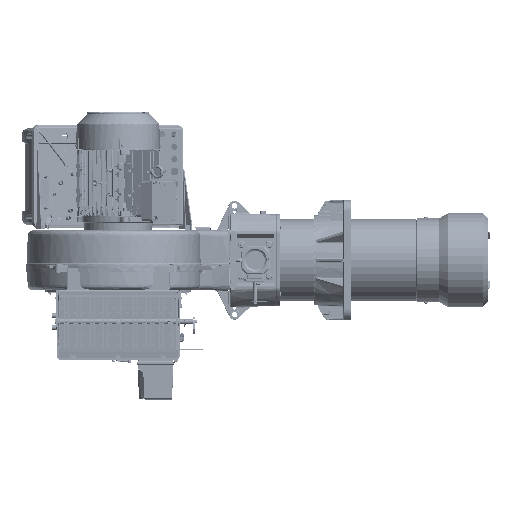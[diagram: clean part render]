
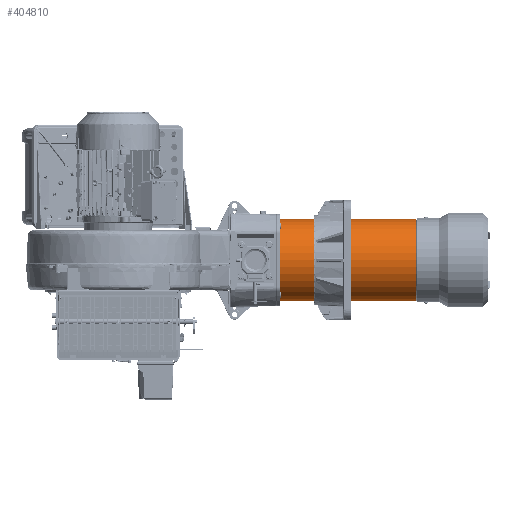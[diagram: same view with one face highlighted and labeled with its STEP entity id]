
A CAD part, front view. The second image highlights one B-rep face of the part: STEP entity #404810.
In plain terms, the highlighted cylindrical face has radius 109.5 mm (diameter 219 mm), a full revolution.
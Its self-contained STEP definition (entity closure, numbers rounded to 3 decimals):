
#7728 = AXIS2_PLACEMENT_3D ( 'NONE', #435300, #231501, #27373 ) ;
#7898 = AXIS2_PLACEMENT_3D ( 'NONE', #50917, #289030, #85146 ) ;
#26980 = ORIENTED_EDGE ( 'NONE', *, *, #238026, .F. ) ;
#27373 = DIRECTION ( 'NONE',  ( 0., 0., -1. ) ) ;
#50917 = CARTESIAN_POINT ( 'NONE',  ( 567.791, -77.49, 20.157 ) ) ;
#63357 = VERTEX_POINT ( 'NONE', #324473 ) ;
#85146 = DIRECTION ( 'NONE',  ( 0., 0., -1. ) ) ;
#88322 = VERTEX_POINT ( 'NONE', #278025 ) ;
#95553 = CARTESIAN_POINT ( 'NONE',  ( 195.791, -77.49, 20.157 ) ) ;
#110504 = EDGE_LOOP ( 'NONE', ( #26980 ) ) ;
#138400 = EDGE_CURVE ( 'NONE', #63357, #63357, #324101, .T. ) ;
#211313 = ORIENTED_EDGE ( 'NONE', *, *, #138400, .T. ) ;
#230480 = EDGE_LOOP ( 'NONE', ( #211313 ) ) ;
#231501 = DIRECTION ( 'NONE',  ( -1., 0., 0. ) ) ;
#238026 = EDGE_CURVE ( 'NONE', #88322, #88322, #353014, .T. ) ;
#278025 = CARTESIAN_POINT ( 'NONE',  ( 198.791, -77.49, -89.343 ) ) ;
#285011 = AXIS2_PLACEMENT_3D ( 'NONE', #95553, #402176, #369354 ) ;
#289030 = DIRECTION ( 'NONE',  ( -1., 0., 0. ) ) ;
#324101 = CIRCLE ( 'NONE', #7898, 109.5 ) ;
#324473 = CARTESIAN_POINT ( 'NONE',  ( 567.791, -77.49, -89.343 ) ) ;
#353014 = CIRCLE ( 'NONE', #7728, 109.5 ) ;
#369354 = DIRECTION ( 'NONE',  ( 0., 0., -1. ) ) ;
#375943 = FACE_OUTER_BOUND ( 'NONE', #230480, .T. ) ;
#386561 = FACE_OUTER_BOUND ( 'NONE', #110504, .T. ) ;
#402176 = DIRECTION ( 'NONE',  ( -1., 0., 0. ) ) ;
#404810 = ADVANCED_FACE ( 'NONE', ( #375943, #386561 ), #423770, .T. ) ;
#423770 = CYLINDRICAL_SURFACE ( 'NONE', #285011, 109.5 ) ;
#435300 = CARTESIAN_POINT ( 'NONE',  ( 198.791, -77.49, 20.157 ) ) ;
